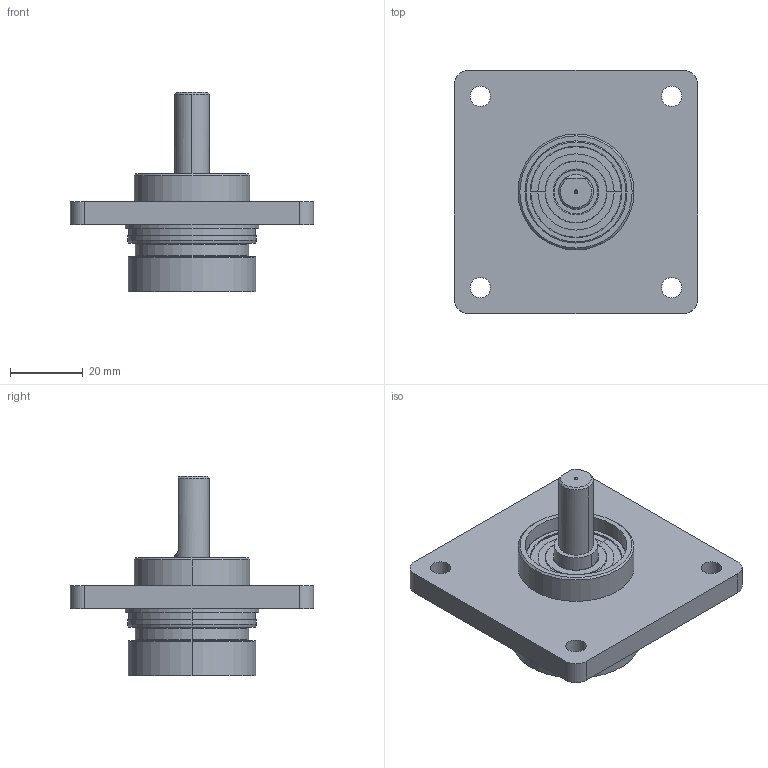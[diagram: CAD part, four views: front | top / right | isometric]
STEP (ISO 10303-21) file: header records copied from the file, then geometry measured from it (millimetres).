
FILE_DESCRIPTION (( 'STEP AP203' ), '1' );
FILE_NAME ('MCD-4A70-Q5A-N.STEP', '2013-10-25T10:31:41', ( 'Admin' ), ( 'Microsoft' ), 'SwSTEP 2.0', 'SolidWorks 2006104', '' );
FILE_SCHEMA (( 'CONFIG_CONTROL_DESIGN' ));
Length unit declared in the file: millimetre
Products named in the file (10): 6001_2Z_PART3; 6001_2Z_PART4; 6001_2Z_PART1; Quadrangular Magnet_ 10004748_Standard; 6001_2Z_Standard; MCD-4A70-Q5A-N; Flange MCD 4_10020639_46W3977-00; 6001_2Z_PART5; 6001_2Z_PART2; Shaft MCD C 9.52x22 A7_10020642_46W3989-00_Standard
Assembly tree (17 placements, depth 3):
  MCD-4A70-Q5A-N
    Shaft MCD C 9.52x22 A7_10020642_46W3989-00_Standard
    Quadrangular Magnet_ 10004748_Standard
    Flange MCD 4_10020639_46W3977-00
    6001_2Z_Standard  x2
      6001_2Z_PART4
      6001_2Z_PART5
      6001_2Z_PART2
      6001_2Z_PART3
      6001_2Z_PART1
Bounding box: 66.7 x 66.7 x 54.7 mm (x, y, z)
Volume: 39071.3 mm3; surface area: 28436.7 mm2
Topology: 29 solids, 29 shells, 292 faces, 665 edges, 411 vertices
Faces by surface type: cylinder 107, plane 61, torus 58, cone 34, sphere 32
Entity records: 6633 total; most frequent: DIRECTION 1073, CARTESIAN_POINT 917, ORIENTED_EDGE 822, AXIS2_PLACEMENT_3D 453, EDGE_CURVE 411, VERTEX_POINT 255, CIRCLE 240, EDGE_LOOP 228
